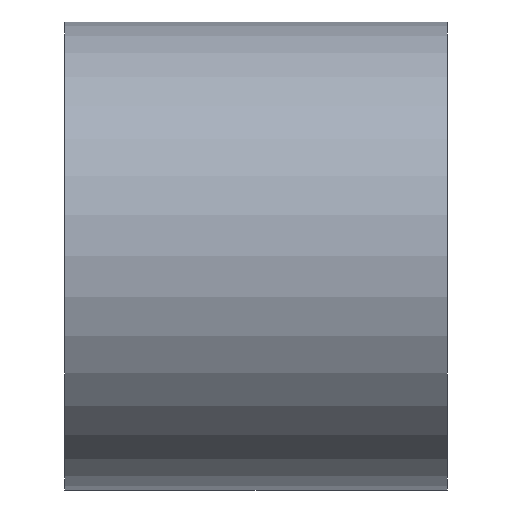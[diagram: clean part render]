
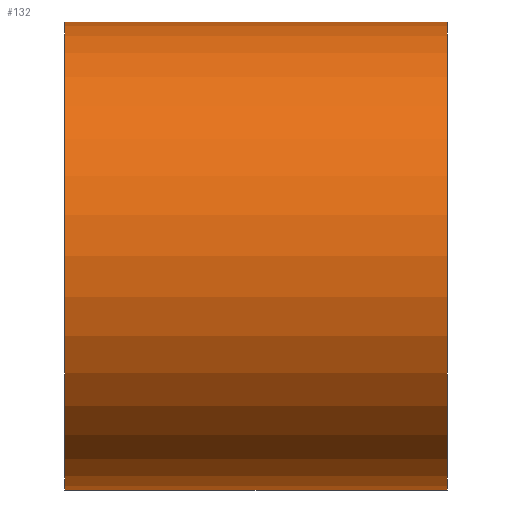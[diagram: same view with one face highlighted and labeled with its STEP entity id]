
A CAD part, front view. The second image highlights one B-rep face of the part: STEP entity #132.
In plain terms, the highlighted cylindrical face has radius 550 mm (diameter 1100 mm), a partial arc.
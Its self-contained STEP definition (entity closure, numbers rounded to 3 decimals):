
#132=ADVANCED_FACE('',(#260),#261,.T.);
#260=FACE_OUTER_BOUND('',#415,.T.);
#261=CYLINDRICAL_SURFACE('',#416,550.0);
#415=EDGE_LOOP('',(#739,#740,#741,#742));
#416=AXIS2_PLACEMENT_3D('',#743,#744,#745);
#739=ORIENTED_EDGE('',*,*,#827,.T.);
#740=ORIENTED_EDGE('',*,*,#968,.F.);
#741=ORIENTED_EDGE('',*,*,#829,.T.);
#742=ORIENTED_EDGE('',*,*,#969,.F.);
#743=CARTESIAN_POINT('',(0.0,0.0,0.0));
#744=DIRECTION('',(1.0,0.0,0.0));
#745=DIRECTION('',(0.0,0.0,-1.0));
#827=EDGE_CURVE('',#973,#974,#975,.T.);
#829=EDGE_CURVE('',#978,#976,#979,.T.);
#968=EDGE_CURVE('',#978,#974,#1186,.T.);
#969=EDGE_CURVE('',#973,#976,#1187,.T.);
#973=VERTEX_POINT('',#1191);
#974=VERTEX_POINT('',#1192);
#975=LINE('',#1193,#1194);
#976=VERTEX_POINT('',#1195);
#978=VERTEX_POINT('',#1197);
#979=LINE('',#1198,#1199);
#1186=CIRCLE('',#1440,550.0);
#1187=CIRCLE('',#1441,550.0);
#1191=CARTESIAN_POINT('',(-450.0,0.0,-550.0));
#1192=CARTESIAN_POINT('',(450.0,0.0,-550.0));
#1193=CARTESIAN_POINT('',(0.0,0.,-550.0));
#1194=VECTOR('',#1444,1.0);
#1195=CARTESIAN_POINT('',(-450.0,0.,550.0));
#1197=CARTESIAN_POINT('',(450.0,0.,550.0));
#1198=CARTESIAN_POINT('',(0.0,0.,550.0));
#1199=VECTOR('',#1448,1.0);
#1440=AXIS2_PLACEMENT_3D('',#1690,#1691,#1692);
#1441=AXIS2_PLACEMENT_3D('',#1693,#1694,#1695);
#1444=DIRECTION('',(1.0,0.0,0.0));
#1448=DIRECTION('',(-1.0,-0.0,-0.0));
#1690=CARTESIAN_POINT('',(450.0,0.0,0.0));
#1691=DIRECTION('',(1.0,0.0,0.0));
#1692=DIRECTION('',(0.0,0.0,-1.0));
#1693=CARTESIAN_POINT('',(-450.0,0.0,0.0));
#1694=DIRECTION('',(-1.0,0.0,0.0));
#1695=DIRECTION('',(0.0,0.0,-1.0));
